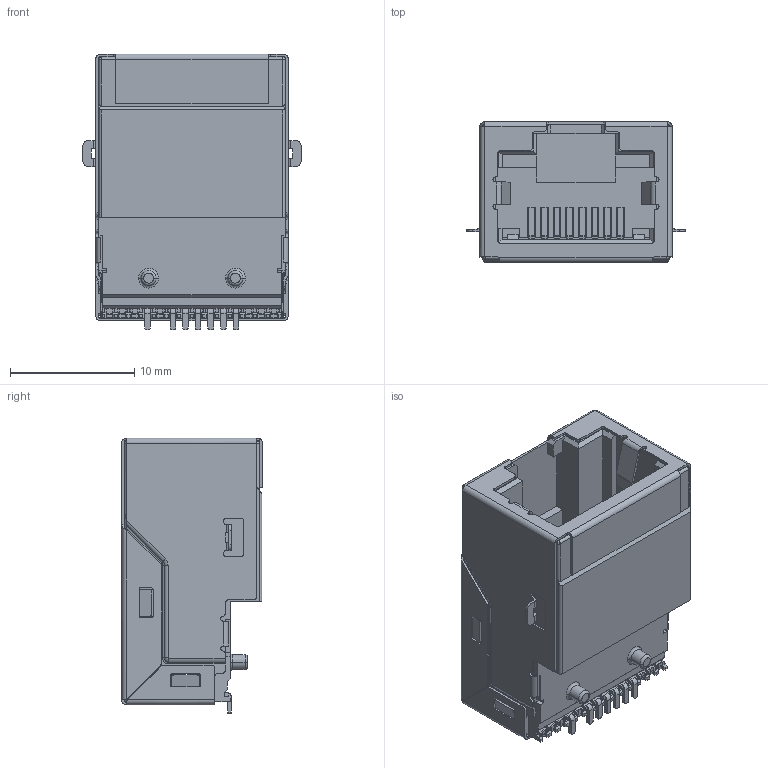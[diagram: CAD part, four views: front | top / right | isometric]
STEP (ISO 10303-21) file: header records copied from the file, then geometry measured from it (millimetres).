
FILE_DESCRIPTION((''),'2;1');
FILE_NAME('DGKYD211B083AB1A7CBS057','2023-09-13T16:33:57',('Administrator'),(''),'CREO PARAMETRIC BY PTC INC, 2019010','CREO PARAMETRIC BY PTC INC, 2019010','');
FILE_SCHEMA(('CONFIG_CONTROL_DESIGN'));
Length unit declared in the file: millimetre
Products named in the file (1): DGKYD211B083AB1A7CBS057
Bounding box: 17.6 x 11.35 x 22.22 mm (x, y, z)
Volume: 1467.2 mm3; surface area: 4951.1 mm2
Topology: 1 solids, 1 shells, 1412 faces, 4188 edges, 2713 vertices
Faces by surface type: plane 1073, cylinder 295, bspline 20, torus 18, sphere 4, extrusion 2
Entity records: 47505 total; most frequent: CARTESIAN_POINT 9430, ORIENTED_EDGE 8368, DIRECTION 7409, EDGE_CURVE 4184, VECTOR 3489, LINE 3487, VERTEX_POINT 2713, AXIS2_PLACEMENT_3D 1960
